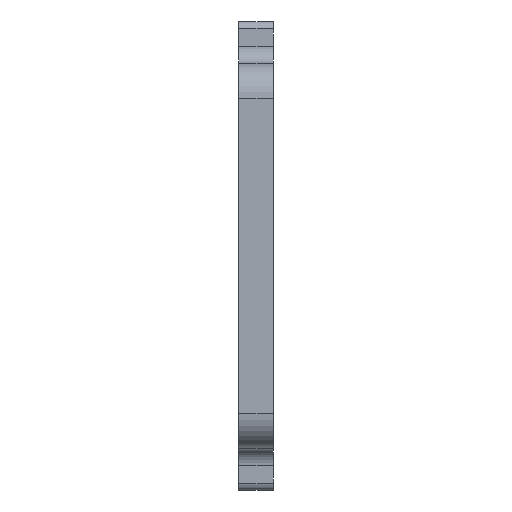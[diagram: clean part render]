
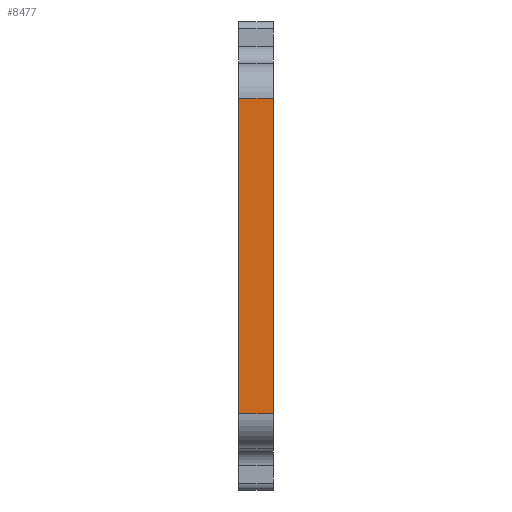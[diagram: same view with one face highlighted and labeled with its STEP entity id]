
A CAD part, left-side view. The second image highlights one B-rep face of the part: STEP entity #8477.
In plain terms, the highlighted planar face has unit normal (-1, 0, 0).
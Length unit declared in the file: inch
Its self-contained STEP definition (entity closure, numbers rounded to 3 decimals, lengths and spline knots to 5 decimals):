
#792 = CARTESIAN_POINT ( 'NONE',  ( -1.56, 0.125, 0.695 ) ) ;
#930 = DIRECTION ( 'NONE',  ( 0., 1., 0. ) ) ;
#1284 = CARTESIAN_POINT ( 'NONE',  ( -1.56, 0.125, 0.695 ) ) ;
#1457 = DIRECTION ( 'NONE',  ( 0., 0., 1. ) ) ;
#1463 = VERTEX_POINT ( 'NONE', #5841 ) ;
#2972 = DIRECTION ( 'NONE',  ( 0., 0., 1. ) ) ;
#2975 = CARTESIAN_POINT ( 'NONE',  ( -1.56, 0.125, -0.5693 ) ) ;
#3198 = EDGE_LOOP ( 'NONE', ( #6698, #7902, #8942, #6705 ) ) ;
#3627 = EDGE_CURVE ( 'NONE', #1463, #8408, #7579, .T. ) ;
#3885 = CARTESIAN_POINT ( 'NONE',  ( -1.56, 0.125, 0.5693 ) ) ;
#4059 = CARTESIAN_POINT ( 'NONE',  ( -1.56, 0.125, 0.5693 ) ) ;
#4140 = FACE_OUTER_BOUND ( 'NONE', #3198, .T. ) ;
#4318 = EDGE_CURVE ( 'NONE', #1463, #7290, #6296, .T. ) ;
#5115 = VECTOR ( 'NONE', #2972, 39.37008 ) ;
#5181 = DIRECTION ( 'NONE',  ( 0., -1., 0. ) ) ;
#5565 = CARTESIAN_POINT ( 'NONE',  ( -1.56, 0., -0.5693 ) ) ;
#5841 = CARTESIAN_POINT ( 'NONE',  ( -1.56, 0.125, -0.5693 ) ) ;
#6296 = LINE ( 'NONE', #2975, #8533 ) ;
#6528 = DIRECTION ( 'NONE',  ( 1., 0., 0. ) ) ;
#6583 = DIRECTION ( 'NONE',  ( 0., 0., -1. ) ) ;
#6698 = ORIENTED_EDGE ( 'NONE', *, *, #7980, .T. ) ;
#6705 = ORIENTED_EDGE ( 'NONE', *, *, #4318, .T. ) ;
#6975 = VECTOR ( 'NONE', #1457, 39.37008 ) ;
#7209 = PLANE ( 'NONE',  #8405 ) ;
#7290 = VERTEX_POINT ( 'NONE', #5565 ) ;
#7579 = LINE ( 'NONE', #792, #5115 ) ;
#7796 = VECTOR ( 'NONE', #930, 39.37008 ) ;
#7902 = ORIENTED_EDGE ( 'NONE', *, *, #8191, .T. ) ;
#7980 = EDGE_CURVE ( 'NONE', #7290, #9000, #8976, .T. ) ;
#8191 = EDGE_CURVE ( 'NONE', #9000, #8408, #8253, .T. ) ;
#8253 = LINE ( 'NONE', #3885, #7796 ) ;
#8405 = AXIS2_PLACEMENT_3D ( 'NONE', #1284, #6528, #6583 ) ;
#8408 = VERTEX_POINT ( 'NONE', #4059 ) ;
#8477 = ADVANCED_FACE ( 'NONE', ( #4140 ), #7209, .F. ) ;
#8533 = VECTOR ( 'NONE', #5181, 39.37008 ) ;
#8928 = CARTESIAN_POINT ( 'NONE',  ( -1.56, 0., 0.695 ) ) ;
#8942 = ORIENTED_EDGE ( 'NONE', *, *, #3627, .F. ) ;
#8976 = LINE ( 'NONE', #8928, #6975 ) ;
#9000 = VERTEX_POINT ( 'NONE', #9686 ) ;
#9686 = CARTESIAN_POINT ( 'NONE',  ( -1.56, 0., 0.5693 ) ) ;
